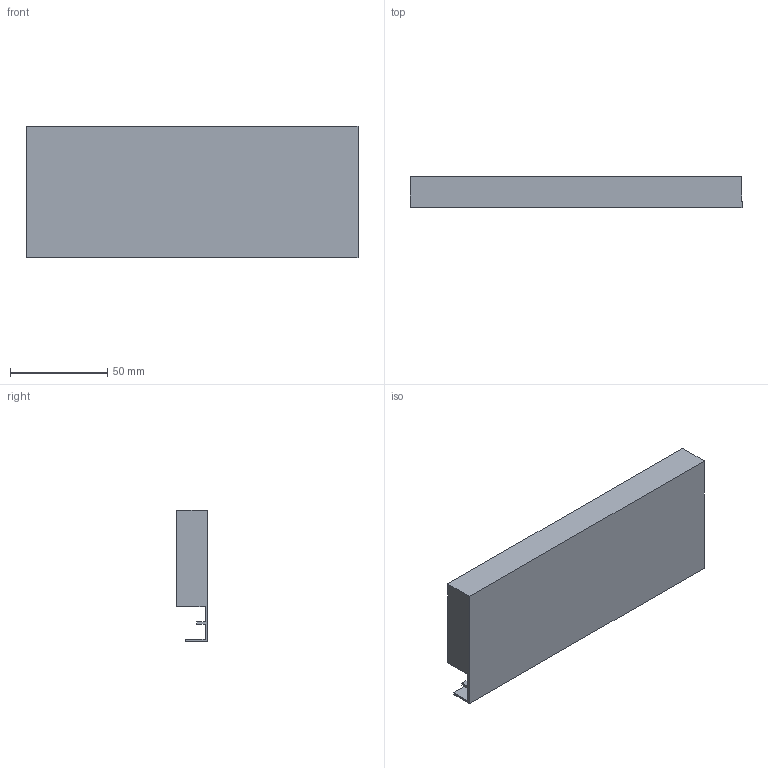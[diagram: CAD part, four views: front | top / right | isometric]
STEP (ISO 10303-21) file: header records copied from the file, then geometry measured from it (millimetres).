
FILE_DESCRIPTION (( 'STEP AP214' ), '1' );
FILE_NAME ('Innenschub-Blendenprofil_KAB300_S19.step', '2010-09-23T12:27:05', ( 'grass' ), ( '' ), 'SwSTEP 2.0', 'SolidWorks 2010', '' );
FILE_SCHEMA (( 'AUTOMOTIVE_DESIGN' ));
Length unit declared in the file: millimetre
Products named in the file (1): Innenschub-Blendenprofil_KAB300_S19
Bounding box: 171 x 15.9 x 67.6 mm (x, y, z)
Volume: 141750.8 mm3; surface area: 35243.2 mm2
Topology: 1 solids, 1 shells, 17 faces, 42 edges, 28 vertices
Faces by surface type: plane 15, cylinder 2
Entity records: 534 total; most frequent: CARTESIAN_POINT 88, ORIENTED_EDGE 84, DIRECTION 82, EDGE_CURVE 42, VECTOR 38, LINE 38, VERTEX_POINT 28, AXIS2_PLACEMENT_3D 22
